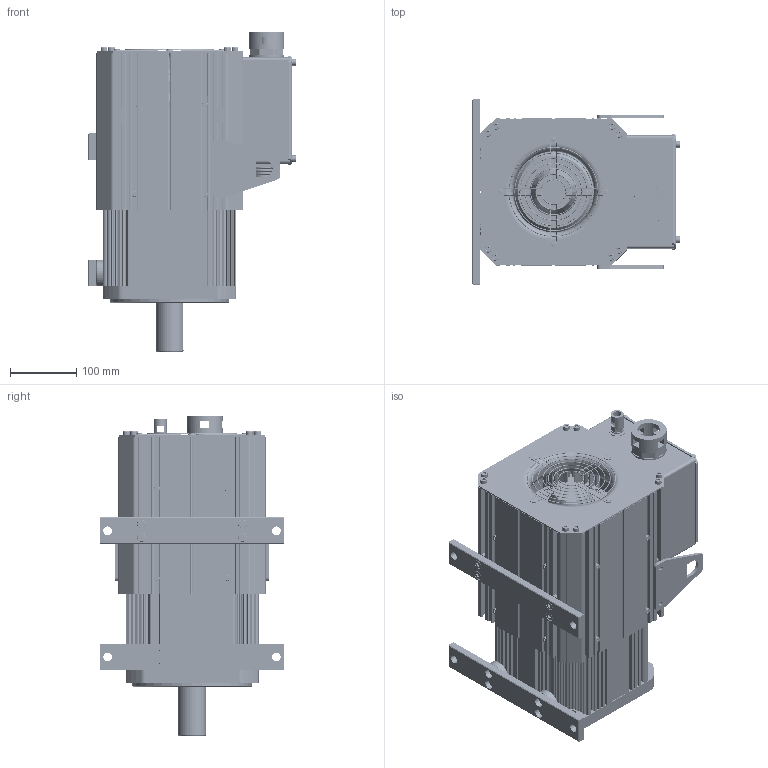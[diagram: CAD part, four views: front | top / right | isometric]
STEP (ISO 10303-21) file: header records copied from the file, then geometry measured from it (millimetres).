
FILE_DESCRIPTION((''),'2;1');
FILE_NAME('K058F18C18P_ASM','2023-05-23T13:09:40',('admin'),(''),'CREO PARAMETRIC BY PTC INC, 2019080','CREO PARAMETRIC BY PTC INC, 2019080','');
FILE_SCHEMA(('CONFIG_CONTROL_DESIGN'));
Products named in the file (44): QDG_10600-00001; ZZ_12400-01002_11KW; ZC_30400-00001; ZC_30400-01002; ZCZDQ_11200-00001; ZZZJ_80500-01002_11KW_ASM; O-RING_50000-01002; JK_10200-44045_11KW; DZZJ_80200-08009_11KW_ASM; FDB_12900-64065_11KW; DEGDT_11500-02003; DE_11300-00001; O-RING_50000-02003; YXHQ_20300-00001; O-RING_50000-03004; JXHT_41000-09010; JXHG_41000-00001; JXHGDK_11600-04005; M6X10; XJD_50800-11012; AD13_1; AD42P5_3; MFD_YD28-15P; HKXZ_YD28-15P_40100-00001; PDLD_4X12; JXHZJ_81100-00002_ASM; M5X25; HDG_21200-00001; M8X30; HGB_21600-00001; M4X10; FJ_40000-03004; FJFHB_11100-02003; FHW_30500-00001; PDQ_4; MD_4; FJFHBZZ_ASM; QZCJ_10400-15016; DK_12800-32033; HZCJ_10400-16017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
Assembly tree (102 placements, depth 3):
  K058F18C18P_ASM
    QDG_10600-00001
    ZZZJ_80500-01002_11KW_ASM
      ZZ_12400-01002_11KW
      ZC_30400-00001
      ZC_30400-01002
      ZCZDQ_11200-00001
    O-RING_50000-01002
    DZZJ_80200-08009_11KW_ASM
      JK_10200-44045_11KW
    FDB_12900-64065_11KW
    DEGDT_11500-02003  x2
    DE_11300-00001  x2
    O-RING_50000-02003
    YXHQ_20300-00001
    O-RING_50000-03004
    JXHZJ_81100-00002_ASM
      JXHT_41000-09010
      JXHG_41000-00001
      JXHGDK_11600-04005  x4
      M6X10  x8
      XJD_50800-11012
      AD13_1
      AD42P5_3
      MFD_YD28-15P
      HKXZ_YD28-15P_40100-00001
      PDLD_4X12  x4
    M5X25  x16
    HDG_21200-00001
    M8X30  x8
    HGB_21600-00001
    M4X10  x4
    FJ_40000-03004
    FJFHBZZ_ASM
      FJFHB_11100-02003
      FHW_30500-00001
      PDQ_4  x4
      MD_4  x4
    M6X10  x8
    ZCJZJ_22300-00007_11KW_ASM
      QZCJ_10400-15016
      DK_12800-32033  x2
      HZCJ_10400-16017
      GDK_11600-09010  x2
      M8X16  x4
Bounding box: 312.35 x 278 x 480.8 mm (x, y, z)
Volume: 6533778 mm3; surface area: 2307922.6 mm2
Topology: 111 solids, 115 shells, 5356 faces, 14217 edges, 9273 vertices
Faces by surface type: plane 2660, cylinder 2108, cone 241, torus 213, bspline 116, sphere 18
Entity records: 147121 total; most frequent: CARTESIAN_POINT 33086, DIRECTION 24204, ORIENTED_EDGE 23690, EDGE_CURVE 11853, AXIS2_PLACEMENT_3D 8496, VERTEX_POINT 7806, VECTOR 7212, LINE 7212
